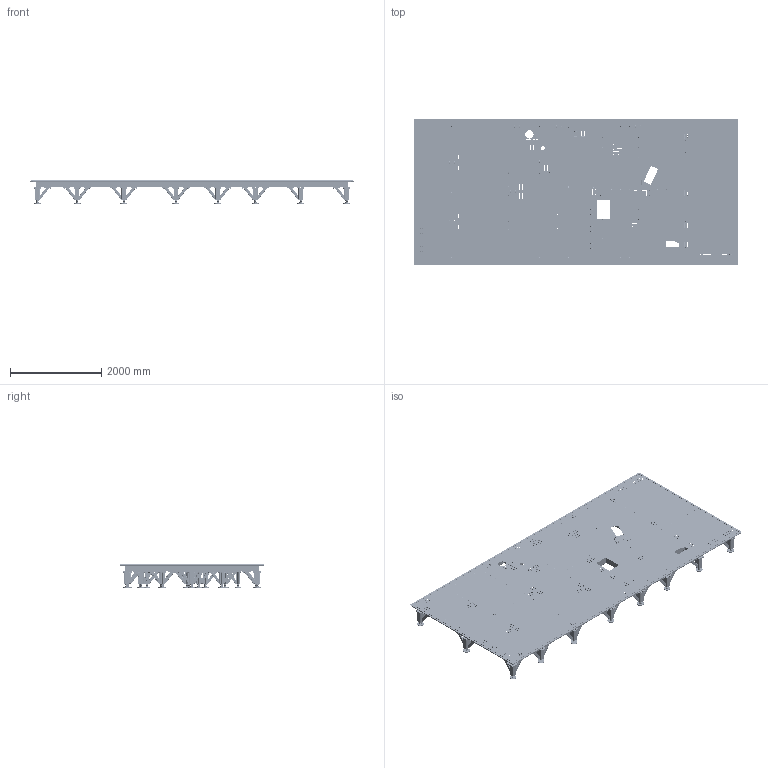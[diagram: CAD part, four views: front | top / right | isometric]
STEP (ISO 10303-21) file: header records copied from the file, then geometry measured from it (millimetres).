
FILE_DESCRIPTION (( 'STEP AP214' ), '1' );
FILE_NAME ('PIC-VIISTA2-002.STEP', '2024-09-20T13:46:15', ( '' ), ( '' ), 'SwSTEP 2.0', 'SolidWorks 2017', '' );
FILE_SCHEMA (( 'AUTOMOTIVE_DESIGN' ));
Length unit declared in the file: millimetre
Products named in the file (34): PIC-VIISTA2-008_att3; z_NUT_H_NUT H M 12; PIC-VIISTA2-006_4-2; Z-cea viista pied old; PIC-VIISTA2-006_3-1<Brut d''usinage>; Z-Screw_H_SCREW H M10x30-26; PIC-VIISTA2-006_3; PIC-VIISTA2-006_4<Brut d''usinage>; PIC-VIISTA2-006_4-3<Brut d''usinage>; PIC-VIISTA2-006_3-2<Brut d''usinage>; PIC-VIISTA2-006_3<Brut d''usinage>; PIC-VIISTA2-008_att1; PIC-VIISTA2-006_4-3; PIC-VIISTA2-002-A; PIC-VIISTA2-006_4-2<Brut d''usinage>; Z-Tige filetée - M12_M12x150; PIC-VIISTA2-006_3-2; PIC-VIISTA2-002; Z-Washer_WASHER M 10; PIC-VIISTA2-008_att2; PIC-VIISTA2-006_4; PIC-VIISTA2-003_D‚faut<Brut d''usinage>; Z-ECROU HM30_‚crou h M30; Z-M12 ASSY_96; PIC-VIISTA2-006_3-1; PIC-VIISTA2-005_D‚faut<Brut d''usinage>; PIC-VIISTA2-007; Z-screw_din_933-m30x120_100; PIC-VIISTA2-006_1; Z-M10 assy; z_Washer_WASHER M 12; PIC-VIISTA2-008_att1b; PIC-VIISTA2-006_1<Brut d''usinage>; PIC-VIISTA2-004
Assembly tree (192 placements, depth 4):
  Z-cea viista pied old
  PIC-VIISTA2-002
    PIC-VIISTA2-002-A
      PIC-VIISTA2-003_D‚faut<Brut d''usinage>
      PIC-VIISTA2-004
      PIC-VIISTA2-008_att1b  x4
      PIC-VIISTA2-008_att3  x6
      PIC-VIISTA2-008_att1  x10
      PIC-VIISTA2-008_att2  x34
    PIC-VIISTA2-006_3-2  x9
      PIC-VIISTA2-006_3-2<Brut d''usinage>
      Z-ECROU HM30_‚crou h M30
      PIC-VIISTA2-007
      Z-screw_din_933-m30x120_100
      Z-M10 assy
        Z-Screw_H_SCREW H M10x30-26
        Z-Washer_WASHER M 10
    PIC-VIISTA2-006_4-2  x2
      PIC-VIISTA2-006_4-2<Brut d''usinage>
      Z-ECROU HM30_‚crou h M30
      PIC-VIISTA2-007
      Z-screw_din_933-m30x120_100
      Z-M10 assy
        Z-Screw_H_SCREW H M10x30-26
        Z-Washer_WASHER M 10
    PIC-VIISTA2-006_4-3  x5
      PIC-VIISTA2-006_4-3<Brut d''usinage>
      Z-ECROU HM30_‚crou h M30
      PIC-VIISTA2-007
      Z-screw_din_933-m30x120_100
      Z-M10 assy
        Z-Screw_H_SCREW H M10x30-26
        Z-Washer_WASHER M 10
    PIC-VIISTA2-006_1  x3
      PIC-VIISTA2-006_1<Brut d''usinage>
      Z-ECROU HM30_‚crou h M30
      PIC-VIISTA2-007
      Z-screw_din_933-m30x120_100
      Z-M10 assy
        Z-Screw_H_SCREW H M10x30-26
        Z-Washer_WASHER M 10
    PIC-VIISTA2-006_4  x4
      PIC-VIISTA2-006_4<Brut d''usinage>
      Z-ECROU HM30_‚crou h M30
      PIC-VIISTA2-007
      Z-screw_din_933-m30x120_100
      Z-M10 assy
        Z-Screw_H_SCREW H M10x30-26
        Z-Washer_WASHER M 10
    PIC-VIISTA2-006_3-1  x2
      PIC-VIISTA2-006_3-1<Brut d''usinage>
      Z-ECROU HM30_‚crou h M30
      PIC-VIISTA2-007
      Z-screw_din_933-m30x120_100
      Z-M10 assy
        Z-Screw_H_SCREW H M10x30-26
        Z-Washer_WASHER M 10
    PIC-VIISTA2-006_3  x8
      PIC-VIISTA2-006_3<Brut d''usinage>
      Z-ECROU HM30_‚crou h M30
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Bounding box: 7097 x 3189 x 520 mm (x, y, z)
Volume: 325674258.9 mm3; surface area: 150064389.1 mm2
Topology: 1492 solids, 1492 shells, 19318 faces, 45550 edges, 29473 vertices
Faces by surface type: plane 9417, cylinder 6723, cone 3112, bspline 66
Entity records: 248456 total; most frequent: CARTESIAN_POINT 40495, DIRECTION 37885, ORIENTED_EDGE 36116, EDGE_CURVE 18058, AXIS2_PLACEMENT_3D 13327, VERTEX_POINT 11795, LINE 11231, VECTOR 11231
